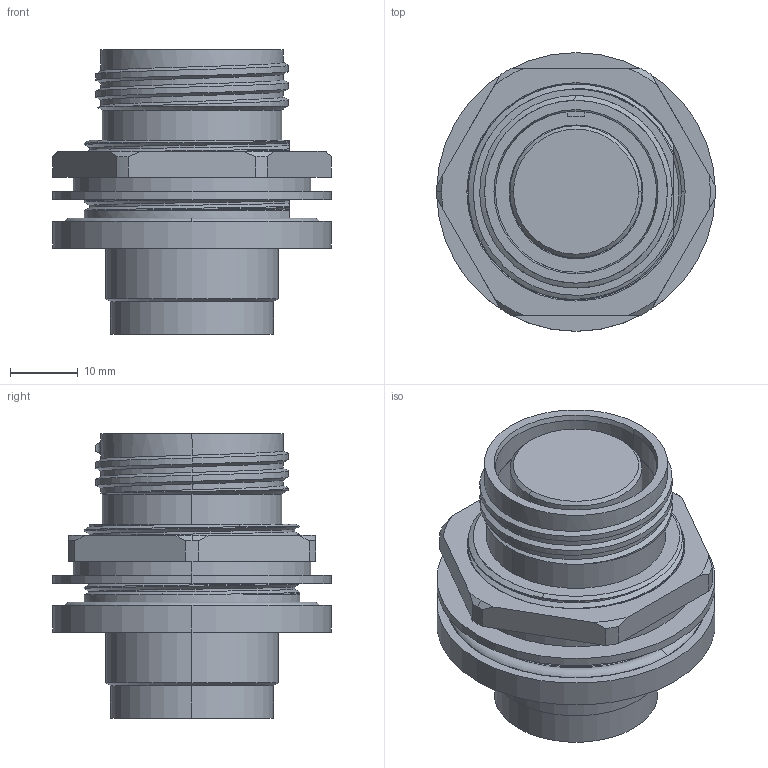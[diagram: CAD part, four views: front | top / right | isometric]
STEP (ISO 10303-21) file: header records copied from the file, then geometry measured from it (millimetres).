
FILE_DESCRIPTION (( 'STEP AP214' ), '1' );
FILE_NAME ('QLINK-RJTX-17XX-S00.STEP', '2025-09-30T21:42:34', ( '' ), ( '' ), 'SwSTEP 2.0', 'SolidWorks 2024', '' );
FILE_SCHEMA (( 'AUTOMOTIVE_DESIGN' ));
Length unit declared in the file: inch
Products named in the file (1): QLINK-RJTX-17XX-S00
Bounding box: 41.02 x 41.02 x 41.91 mm (x, y, z)
Volume: 26023.4 mm3; surface area: 14100.1 mm2
Topology: 3 solids, 3 shells, 179 faces, 470 edges, 305 vertices
Faces by surface type: cylinder 75, plane 34, bspline 30, cone 26, torus 14
Entity records: 14509 total; most frequent: CARTESIAN_POINT 10432, ORIENTED_EDGE 940, DIRECTION 756, EDGE_CURVE 470, AXIS2_PLACEMENT_3D 312, VERTEX_POINT 305, EDGE_LOOP 197, FACE_OUTER_BOUND 179
